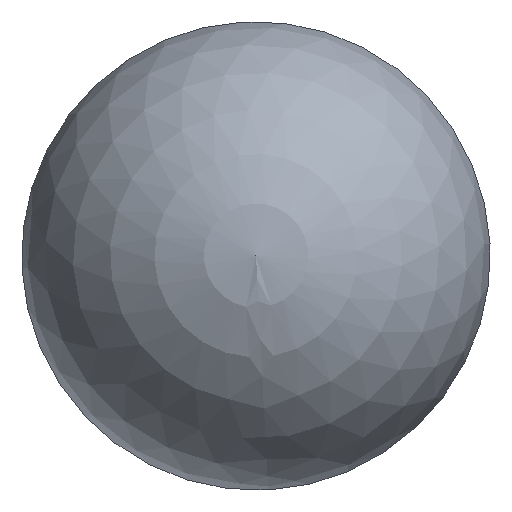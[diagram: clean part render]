
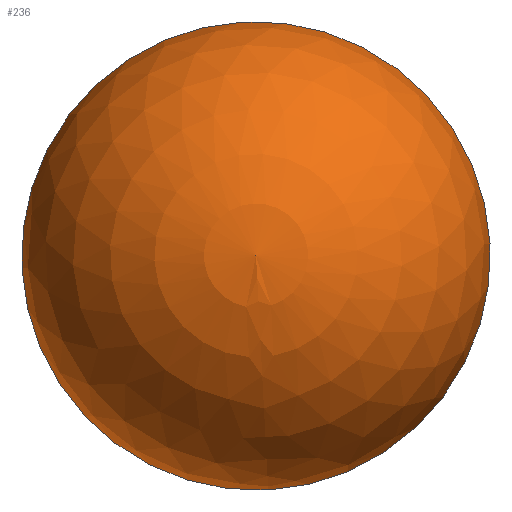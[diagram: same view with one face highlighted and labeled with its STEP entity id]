
A CAD part, top view. The second image highlights one B-rep face of the part: STEP entity #236.
In plain terms, the highlighted spherical face has radius 10 mm.
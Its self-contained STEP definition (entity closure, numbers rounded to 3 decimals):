
#59 = AXIS2_PLACEMENT_3D ( 'NONE', #434, #349, #524 ) ;
#62 = CARTESIAN_POINT ( 'NONE',  ( 0., 0., 159. ) ) ;
#74 = DIRECTION ( 'NONE',  ( 1., 0., 0. ) ) ;
#77 = CARTESIAN_POINT ( 'NONE',  ( 9.987, 0.518, 159. ) ) ;
#89 = CIRCLE ( 'NONE', #463, 10. ) ;
#92 = CARTESIAN_POINT ( 'NONE',  ( 0., 0., 159. ) ) ;
#183 = DIRECTION ( 'NONE',  ( 0., 0., 1. ) ) ;
#193 = EDGE_CURVE ( 'NONE', #287, #478, #89, .T. ) ;
#201 = FACE_OUTER_BOUND ( 'NONE', #211, .T. ) ;
#211 = EDGE_LOOP ( 'NONE', ( #225, #416 ) ) ;
#225 = ORIENTED_EDGE ( 'NONE', *, *, #193, .F. ) ;
#236 = ADVANCED_FACE ( 'NONE', ( #201 ), #436, .T. ) ;
#268 = DIRECTION ( 'NONE',  ( -1., 0., 0. ) ) ;
#287 = VERTEX_POINT ( 'NONE', #77 ) ;
#349 = DIRECTION ( 'NONE',  ( 0., 0., 1. ) ) ;
#353 = CIRCLE ( 'NONE', #374, 10. ) ;
#374 = AXIS2_PLACEMENT_3D ( 'NONE', #62, #183, #74 ) ;
#406 = EDGE_CURVE ( 'NONE', #287, #478, #353, .T. ) ;
#416 = ORIENTED_EDGE ( 'NONE', *, *, #406, .T. ) ;
#434 = CARTESIAN_POINT ( 'NONE',  ( 0., 0., 159. ) ) ;
#436 = SPHERICAL_SURFACE ( 'NONE', #59, 10. ) ;
#463 = AXIS2_PLACEMENT_3D ( 'NONE', #92, #491, #268 ) ;
#478 = VERTEX_POINT ( 'NONE', #525 ) ;
#491 = DIRECTION ( 'NONE',  ( 0., 0., -1. ) ) ;
#524 = DIRECTION ( 'NONE',  ( 0.052, -0.999, 0. ) ) ;
#525 = CARTESIAN_POINT ( 'NONE',  ( -9.987, -0.518, 159. ) ) ;
